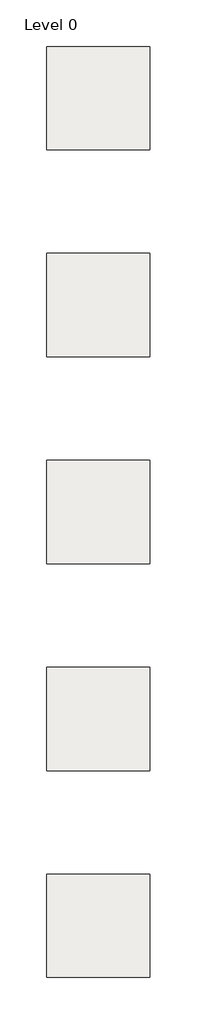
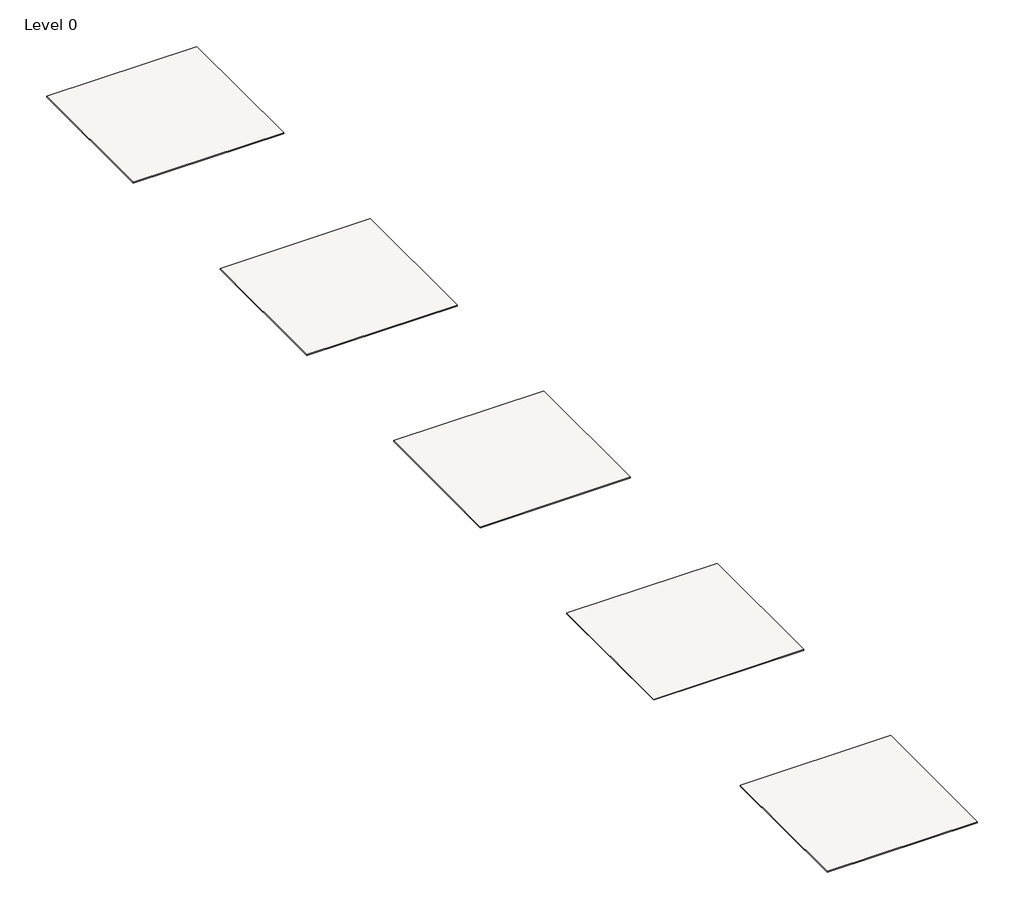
# One storey: 5 coverings.
"""IFC4 building model written with IfcOpenShell, lengths in millimetres."""

from ifc_helpers import new_model, si_unit, origin, origin_with_axes, place, context, project, spatial, polyline, outline, extrude, element, save

model = new_model("IFC4")

# Units and contexts
model_context = context("Model", 3, world=origin())
ifc_project = project(units=[si_unit("LENGTHUNIT", "METRE", prefix="MILLI")], contexts=[model_context])

# Site, building, storey
site = spatial("IfcSite", under=ifc_project)
building = spatial("IfcBuilding", under=site)
storey = spatial("IfcBuildingStorey", under=building, Name="Level 0", Elevation=0.0)

# Coverings
placement = place(None, origin())
element("IfcCovering", 1, ObjectType="NBS_Zentia_ModularSuspendedCeilingSystems_Oplia-NexusLayouts_NexusARRAY", at=placement, inside=storey, context=model_context, shape_type="SweptSolid", body=[
    extrude(outline(polyline([(-976.0, -4024.0), (-976.0, -1524.0), (1524.0, -1524.0), (1524.0, -4024.0), (-976.0, -4024.0)])), origin_with_axes(), (0.0, 0.0, 1.0), 17.0),
])
element("IfcCovering", 2, ObjectType="NBS_Zentia_ModularSuspendedCeilingSystems_Oplia-NexusLayouts_NexusBERG", at=placement, inside=storey, context=model_context, shape_type="SweptSolid", body=[
    extrude(outline(polyline([(-976.0, -9024.0), (-976.0, -6524.0), (1524.0, -6524.0), (1524.0, -9024.0), (-976.0, -9024.0)])), origin_with_axes(), (0.0, 0.0, 1.0), 17.0),
])
element("IfcCovering", 3, ObjectType="NBS_Zentia_ModularSuspendedCeilingSystems_Oplia-NexusLayouts_NexusEXCLAIM", at=placement, inside=storey, context=model_context, shape_type="SweptSolid", body=[
    extrude(outline(polyline([(-976.0, -14024.0), (-976.0, -11524.0), (1524.0, -11524.0), (1524.0, -14024.0), (-976.0, -14024.0)])), origin_with_axes(), (0.0, 0.0, 1.0), 17.0),
])
element("IfcCovering", 4, ObjectType="NBS_Zentia_ModularSuspendedCeilingSystems_Oplia-NexusLayouts_NexusPIXAL", at=placement, inside=storey, context=model_context, shape_type="SweptSolid", body=[
    extrude(outline(polyline([(-976.0, -19024.0), (-976.0, -16524.0), (1524.0, -16524.0), (1524.0, -19024.0), (-976.0, -19024.0)])), origin_with_axes(), (0.0, 0.0, 1.0), 17.0),
])
element("IfcCovering", 5, ObjectType="NBS_Zentia_ModularSuspendedCeilingSystems_Oplia-NexusLayouts_NexusSTEP", at=placement, inside=storey, context=model_context, shape_type="SweptSolid", body=[
    extrude(outline(polyline([(-976.0, -24024.0), (-976.0, -21524.0), (1524.0, -21524.0), (1524.0, -24024.0), (-976.0, -24024.0)])), origin_with_axes(), (0.0, 0.0, 1.0), 17.0),
])

save(model, "model.ifc")
